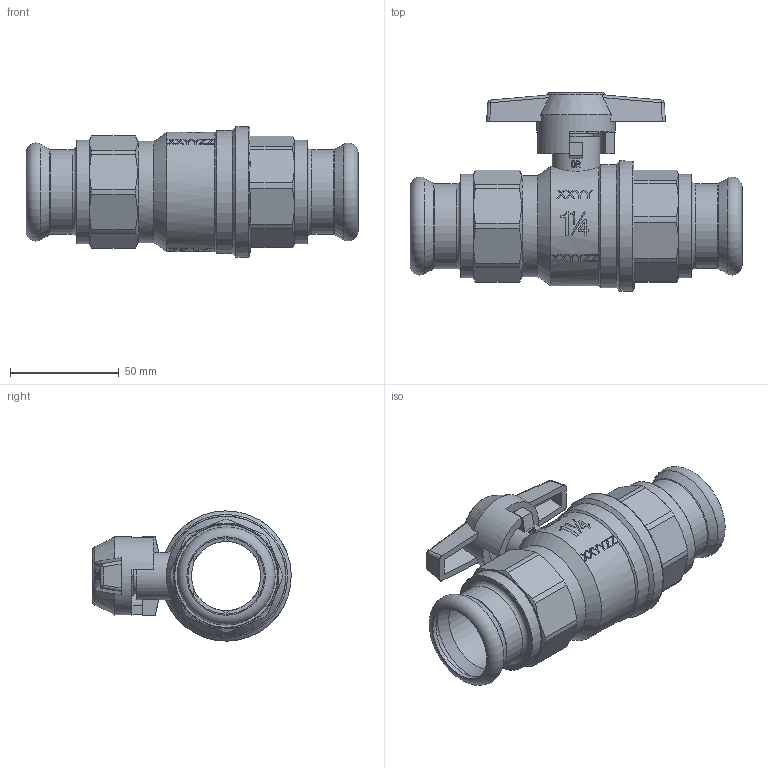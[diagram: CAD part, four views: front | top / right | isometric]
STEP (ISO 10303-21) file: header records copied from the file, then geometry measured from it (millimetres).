
FILE_DESCRIPTION((''),'2;1');
FILE_NAME('P:\Fastrack\53972_CRANE 3D\Press Fit\D171A\THandle\35MM\D171ATH-PF-35MM.stp','2011-11-22T16:50:17',('dcole'),(''),'Autodesk Inventor 2008','Autodesk Inventor 2008','');
FILE_SCHEMA(('AUTOMOTIVE_DESIGN { 1 0 10303 214 1 1 1 1 }'));
Length unit declared in the file: millimetre
Products named in the file (1): D171ATH-PF-35MM
Bounding box: 152.4 x 91.09 x 59.79 mm (x, y, z)
Volume: 152293.1 mm3; surface area: 77754 mm2
Topology: 1 solids, 8 shells, 835 faces, 2353 edges, 1616 vertices
Faces by surface type: plane 394, bspline 214, cylinder 123, cone 84, torus 13, sphere 7
Full cylindrical faces by diameter (mm): 2 x1, 12 x1, 12.1 x2, 12.5 x1, 13 x1, 13.5 x1, 16 x1, 16.3 x1, 16.5 x2, 22 x1, 25 x1, 28 x1, 32 x5, 35 x4, 36 x1, 38.55 x2, 38.952 x2, 39 x2, 41 x2, 42 x4, 42.5 x2, 46.5 x1, 47 x1, 47.6 x2, 50.5 x1, 52 x1, 52.2 x1, 54.8 x1, 56.5 x1, 59.8 x1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
Entity records: 54746 total; most frequent: CARTESIAN_POINT 34412, ORIENTED_EDGE 4364, DIRECTION 3320, EDGE_CURVE 2182, VERTEX_POINT 1561, AXIS2_PLACEMENT_3D 1118, VECTOR 1084, LINE 1084
